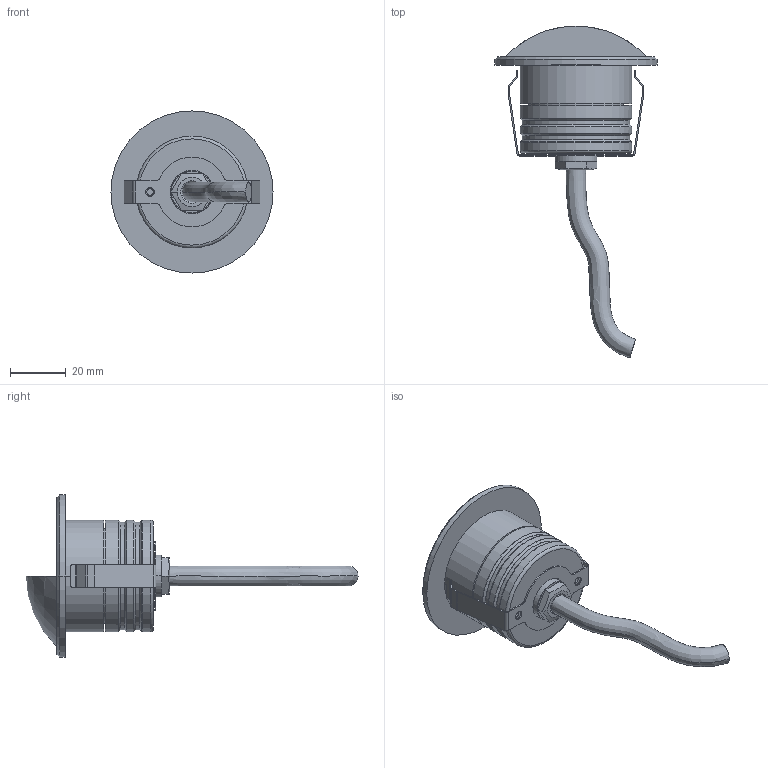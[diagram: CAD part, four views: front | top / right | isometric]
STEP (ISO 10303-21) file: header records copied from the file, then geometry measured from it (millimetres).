
FILE_DESCRIPTION((''),'2;1');
FILE_NAME('2XA_BZG_ASM_19_ASM','2021-05-10T',('Administrator'),(''),'PRO/ENGINEER BY PARAMETRIC TECHNOLOGY CORPORATION, 2010280','PRO/ENGINEER BY PARAMETRIC TECHNOLOGY CORPORATION, 2010280','');
FILE_SCHEMA(('CONFIG_CONTROL_DESIGN'));
Length unit declared in the file: millimetre
Products named in the file (8): 2XA-DT_2; 2XA-BO-LI_5; 2XA_1K_MG_INST_20; M12A_2; DX_1; M12A_DXZ_ASM_5_ASM; 2XA-KA-HUANG_4; 2XA_BZG_ASM_19_ASM
Assembly tree (7 placements, depth 3):
  2XA_BZG_ASM_19_ASM
    2XA-DT_2
    2XA-BO-LI_5
    2XA_1K_MG_INST_20
    M12A_DXZ_ASM_5_ASM
      M12A_2
      DX_1
    2XA-KA-HUANG_4
Bounding box: 58 x 118.77 x 58 mm (x, y, z)
Volume: 45011.1 mm3; surface area: 26472.6 mm2
Topology: 6 solids, 6 shells, 305 faces, 849 edges, 573 vertices
Faces by surface type: cylinder 127, plane 80, bspline 40, torus 31, cone 23, sphere 3, extrusion 1
Entity records: 16094 total; most frequent: CARTESIAN_POINT 8040, ORIENTED_EDGE 1692, DIRECTION 1670, EDGE_CURVE 846, AXIS2_PLACEMENT_3D 688, VERTEX_POINT 573, CIRCLE 407, EDGE_LOOP 337
